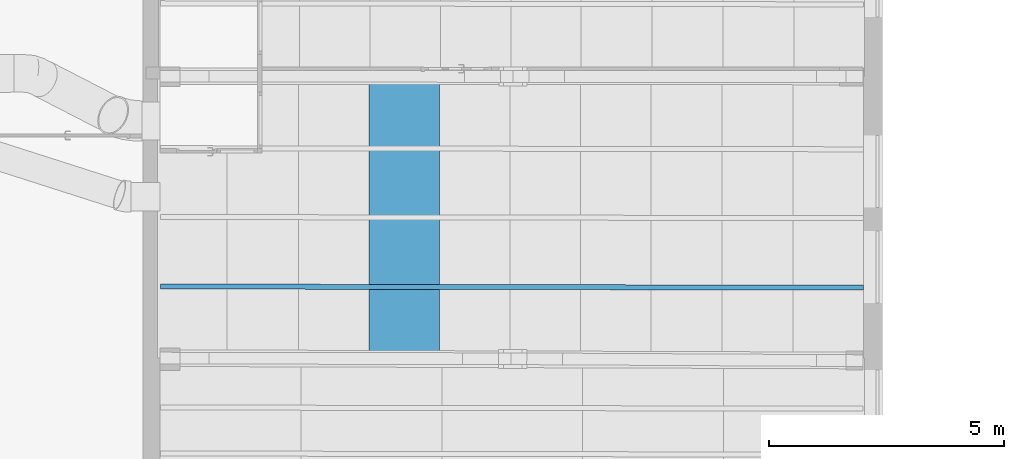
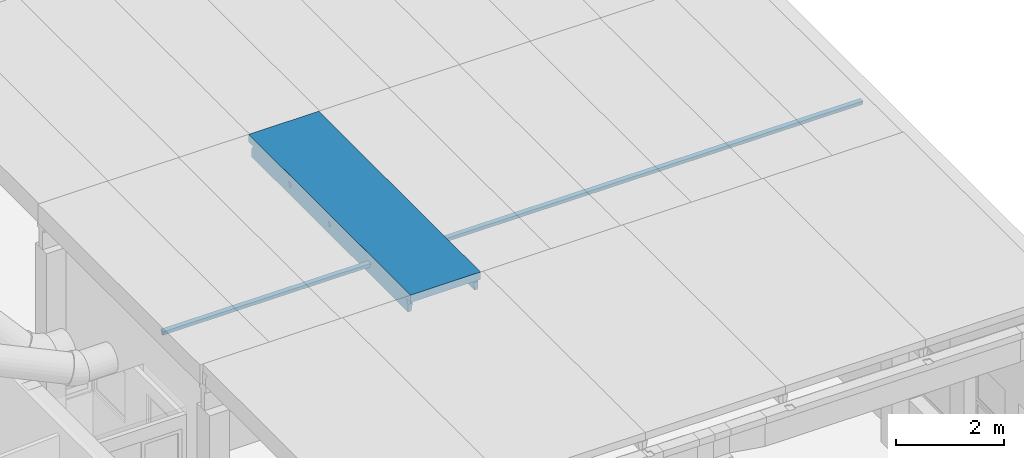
# One storey, part 32 of 301: 2 beams.
"""IFC2X3 building model written with IfcOpenShell, lengths in millimetres."""

from ifc_helpers import new_model, entity, si_unit, converted_unit, derived_unit, money_unit, direction, frame, origin_with_axes, place, context, subcontext, project, spatial, faceted_brep, material, type_object, element, save


model = new_model("IFC2X3")

# Units and contexts
model_context = context("Model", 3, precision=0.01, world=origin_with_axes(), true_north=direction((0.0, 1.0)))
body_context = subcontext(model_context, "Body", "Model", "MODEL_VIEW")
ifc_project = project(units=[si_unit("LENGTHUNIT", "METRE", prefix="MILLI"), si_unit("AREAUNIT", "SQUARE_METRE"), si_unit("VOLUMEUNIT", "CUBIC_METRE"), converted_unit("PLANEANGLEUNIT", "DEGREE", entity("IfcPlaneAngleMeasure", 0.0174532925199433), si_unit("PLANEANGLEUNIT", "RADIAN"), dimensions=[0, 0, 0, 0, 0, 0, 0]), money_unit("EUR"), converted_unit("TIMEUNIT", "Year", entity("IfcTimeMeasure", 31557600.0), si_unit("TIMEUNIT", "SECOND"), dimensions=[0, 0, 1, 0, 0, 0, 0]), si_unit("MASSUNIT", "GRAM", prefix="KILO"), si_unit("THERMODYNAMICTEMPERATUREUNIT", "DEGREE_CELSIUS"), si_unit("LUMINOUSINTENSITYUNIT", "LUMEN"), si_unit("ENERGYUNIT", "JOULE", prefix="MEGA"), derived_unit("THERMALCONDUCTANCEUNIT", [(si_unit("POWERUNIT", "WATT"), 1), (si_unit("LENGTHUNIT", "METRE"), -1), (si_unit("THERMODYNAMICTEMPERATUREUNIT", "KELVIN"), -1)]), derived_unit("SPECIFICHEATCAPACITYUNIT", [(si_unit("ENERGYUNIT", "JOULE"), 1), (si_unit("MASSUNIT", "GRAM", prefix="KILO"), -1), (si_unit("THERMODYNAMICTEMPERATUREUNIT", "KELVIN"), -1)]), derived_unit("MASSDENSITYUNIT", [(si_unit("MASSUNIT", "GRAM", prefix="KILO"), 1), (si_unit("VOLUMEUNIT", "CUBIC_METRE"), -1)])], contexts=[model_context])

# Site, building, storey
site_placement = place(None, frame((0.0, 0.0, 8650.0), z_axis=(0.0, 0.0, 1.0), x_axis=(1.0, 0.0, 0.0)))
site = spatial("IfcSite", under=ifc_project, at=site_placement, Name="43301:001:0844", CompositionType="ELEMENT")
building_placement = place(site_placement, origin_with_axes())
building = spatial("IfcBuilding", under=site, at=building_placement, Name="Kuressaare Ametikooli tuulikute mehaanikute õppekorpus", CompositionType="ELEMENT")
storey_placement = place(building_placement, origin_with_axes())
storey = spatial("IfcBuildingStorey", under=building, at=storey_placement, Name="1.korrus", CompositionType="ELEMENT", Elevation=0.0)

# Beams
ifc_material = material(Name="GENEERILINE - KONSTRUKTRIOON")
beam_type_1 = type_object("IfcBeamType", Name="Precast Double Tee 2 1500 x 440", PredefinedType="NOTDEFINED")
beam_1_placement = place(storey_placement, frame((93455.87775377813, 50086.65261783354, 7100.0), z_axis=(0.0, 0.0, 1.0), x_axis=(-1.0, 0.0, 0.0)))
element("IfcBeam", 1, at=beam_1_placement, inside=storey, type_object=beam_type_1, material=ifc_material, context=body_context, shape_type="Brep", body=[
    faceted_brep([(750.0, 0.0, 0.0), (750.0, 6001.50033195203, 0.0), (-750.0, 6001.50033195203, 0.0), (-750.0, 0.0, 0.0), (750.0, 5837.559214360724, -168.9999999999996), (750.0, 6001.50033195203, -168.9999999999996), (750.0, 0.0, -169.8234995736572), (750.0, 176.1792421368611, -169.8234995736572), (750.0, 165.2166938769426, -181.3563575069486), (750.0, 133.5442158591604, -222.3718083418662), (750.0, 107.9522251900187, -267.4324680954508), (750.0, 107.9517025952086, -440.0001340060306), (750.0, 5905.787145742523, -440.0001340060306), (750.0, 5905.786620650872, -266.6089685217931), (750.0, 5880.194483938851, -221.5483087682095), (750.0, 5848.521825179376, -180.5328579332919), (750.0, 1582.094455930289, -175.3978342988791), (750.0, 1577.519836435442, -184.1936973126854), (750.0, 1556.779850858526, -271.7709778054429), (750.0, 1516.779797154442, -271.7709778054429), (750.0, 1496.038849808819, -184.1935020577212), (750.0, 1491.464209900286, -175.3977593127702), (750.0, 1483.265418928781, -169.8234995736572), (750.0, 1590.293313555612, -169.8234995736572), (750.0, 3043.360536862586, -184.1936973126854), (750.0, 3022.62055128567, -271.7709778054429), (750.0, 2982.620497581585, -271.7709778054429), (750.0, 2961.879550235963, -184.1935020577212), (750.0, 2957.30491032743, -175.3977593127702), (750.0, 2949.106119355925, -169.8234995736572), (750.0, 3056.134013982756, -169.8234995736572), (750.0, 3047.935156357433, -175.3978342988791), (750.0, 4502.712850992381, -271.7709778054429), (750.0, 4462.712797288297, -271.7709778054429), (750.0, 4441.971849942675, -184.1935020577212), (750.0, 4437.397210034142, -175.3977593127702), (750.0, 4429.198419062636, -169.8234995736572), (750.0, 4536.226313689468, -169.8234995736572), (750.0, 4528.027456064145, -175.3978342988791), (750.0, 4523.452836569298, -184.1936973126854), (-750.0, 6001.50033195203, -168.9999999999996), (-750.0, 5842.644004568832, -168.9999999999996), (-750.0, 5853.606615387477, -180.5328579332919), (-750.0, 5885.27927414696, -221.5483087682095), (-750.0, 5910.871410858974, -266.6089685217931), (-750.0, 5910.871935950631, -440.0001340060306), (-750.0, 108.3704889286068, -440.0001340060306), (-750.0, 108.3710115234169, -267.4324680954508), (-750.0, 133.9630021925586, -222.3718083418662), (-750.0, 165.6354802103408, -181.3563575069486), (-750.0, 176.5980284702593, -169.8234995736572), (-750.0, 0.0, -169.8234995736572), (-750.0, 1498.49683963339, -184.1935020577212), (-750.0, 1519.237786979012, -271.7709778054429), (-750.0, 1559.237840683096, -271.7709778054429), (-750.0, 1579.977826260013, -184.1936973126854), (-750.0, 1584.552445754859, -175.3978342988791), (-750.0, 1592.751303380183, -169.8234995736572), (-750.0, 1485.723408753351, -169.8234995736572), (-750.0, 1493.922199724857, -175.3977593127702), (-750.0, 2985.078487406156, -271.7709778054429), (-750.0, 3025.07854111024, -271.7709778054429), (-750.0, 3045.818526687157, -184.1936973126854), (-750.0, 3050.393146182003, -175.3978342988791), (-750.0, 3058.592003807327, -169.8234995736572), (-750.0, 2951.564109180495, -169.8234995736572), (-750.0, 2959.762900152, -175.3977593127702), (-750.0, 2964.337540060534, -184.1935020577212), (-750.0, 4505.170840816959, -271.7709778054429), (-750.0, 4525.910826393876, -184.1936973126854), (-750.0, 4530.485445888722, -175.3978342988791), (-750.0, 4538.684303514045, -169.8234995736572), (-750.0, 4431.656408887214, -169.8234995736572), (-750.0, 4439.855199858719, -175.3977593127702), (-750.0, 4444.429839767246, -184.1935020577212), (-750.0, 4465.170787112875, -271.7709778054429), (-584.2531439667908, 0.0, -169.8234995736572), (586.8200850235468, 0.0, -169.8234995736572), (586.8200850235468, 176.2248004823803, -169.8234995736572), (604.4404036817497, 174.1762299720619, -171.9734684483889), (620.1516209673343, 166.3186939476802, -180.2351660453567), (621.1429266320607, 165.2526695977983, -181.3563575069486), (631.9095256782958, 155.8462554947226, -193.5336498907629), (638.1842783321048, 143.0219949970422, -210.1386333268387), (640.4097012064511, 133.5748124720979, -222.3718083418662), (648.6070026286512, 107.980533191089, -267.4324680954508), (680.0000000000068, 107.9712459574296, -440.0001340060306), (680.0000000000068, 5906.024435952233, -440.0001340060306), (648.4571940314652, 5906.130836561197, -266.6089685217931), (640.2598926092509, 5880.566487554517, -221.5483087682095), (620.4148263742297, 5848.961100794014, -180.5328579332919), (638.1842783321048, 5871.762825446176, -210.1386333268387), (631.9095256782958, 5858.961514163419, -193.5336498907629), (604.4404036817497, 5840.879085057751, -171.9734684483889), (586.8200850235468, 5838.895152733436, -169.8234995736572), (-584.2531439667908, 5842.864927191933, -169.8234995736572), (-604.310838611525, 5846.43314102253, -173.5057932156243), (-615.9100461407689, 5853.152069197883, -180.5328579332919), (620.1516209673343, 5848.679020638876, -180.2351660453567), (620.1516209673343, 1579.79139688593, -180.2351660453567), (623.651571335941, 1577.72687853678, -184.1936973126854), (610.952498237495, 1582.322307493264, -175.3978342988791), (638.1842783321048, 1571.558804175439, -210.1386333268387), (649.3962514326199, 1556.944706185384, -271.7709778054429), (631.9095256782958, 1575.501466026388, -193.5336498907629), (649.3962514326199, 1516.9446524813, -271.7709778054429), (638.1842783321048, 1502.366655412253, -210.1386333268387), (631.9095256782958, 1498.444384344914, -193.5336498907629), (623.651398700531, 1496.245892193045, -184.1935020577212), (610.952355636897, 1491.692061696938, -175.3977593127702), (620.1516209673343, 1494.192908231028, -180.2351660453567), (586.8200850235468, 1483.532815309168, -169.8234995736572), (604.4404036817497, 1486.666181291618, -171.9734684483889), (586.8200850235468, 1590.560709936, -169.8234995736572), (604.4404036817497, 1587.369613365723, -171.9734684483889), (649.3962514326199, 3022.785406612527, -271.7709778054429), (623.651571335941, 3043.567578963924, -184.1936973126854), (631.9095256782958, 3041.342166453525, -193.5336498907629), (638.1842783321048, 3037.399504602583, -210.1386333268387), (649.3962514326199, 2982.785352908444, -271.7709778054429), (638.1842783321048, 2968.207355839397, -210.1386333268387), (631.9095256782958, 2964.285084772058, -193.5336498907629), (623.651398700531, 2962.086592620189, -184.1935020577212), (620.1516209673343, 2960.033608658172, -180.2351660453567), (610.952355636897, 2957.532762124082, -175.3977593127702), (604.4404036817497, 2952.506881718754, -171.9734684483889), (586.8200850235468, 2949.373515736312, -169.8234995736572), (586.8200850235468, 3056.401410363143, -169.8234995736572), (610.952498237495, 3048.163007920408, -175.3978342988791), (604.4404036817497, 3053.210313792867, -171.9734684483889), (620.1516209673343, 3045.632097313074, -180.2351660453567), (649.3962514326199, 4502.877706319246, -271.7709778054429), (649.3962514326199, 4462.877652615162, -271.7709778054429), (638.1842783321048, 4448.299655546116, -210.1386333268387), (631.9095256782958, 4444.377384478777, -193.5336498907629), (623.651398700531, 4442.1788923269, -184.1935020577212), (620.1516209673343, 4440.125908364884, -180.2351660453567), (610.952355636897, 4437.625061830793, -175.3977593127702), (604.4404036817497, 4432.599181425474, -171.9734684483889), (586.8200850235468, 4429.465815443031, -169.8234995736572), (586.8200850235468, 4536.493710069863, -169.8234995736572), (604.4404036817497, 4533.302613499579, -171.9734684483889), (610.952498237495, 4528.25530762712, -175.3978342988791), (620.1516209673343, 4525.724397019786, -180.2351660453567), (623.651571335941, 4523.659878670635, -184.1936973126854), (631.9095256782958, 4521.434466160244, -193.5336498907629), (638.1842783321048, 4517.491804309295, -210.1386333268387), (-621.7526411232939, 5855.905181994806, -184.072435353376), (-634.3038197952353, 5868.359433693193, -200.1453415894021), (-640.3274701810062, 5883.424851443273, -219.6283094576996), (-640.6295561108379, 5884.908523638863, -221.5483087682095), (-647.7192416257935, 5910.524693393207, -266.6089685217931), (-674.9999969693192, 5910.617696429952, -440.0001340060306), (-674.9999969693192, 108.3495496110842, -440.0001340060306), (-647.8488081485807, 108.3424918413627, -267.4324680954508), (-640.7591226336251, 133.9325031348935, -222.3718083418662), (-640.3274701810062, 136.0509356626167, -219.6283094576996), (-634.3038197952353, 151.0941664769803, -200.1453415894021), (-621.7526411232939, 163.5022964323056, -184.072435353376), (-617.2693537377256, 165.5984230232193, -181.3563575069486), (-584.2531439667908, 176.5517534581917, -169.8234995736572), (-604.310838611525, 173.0571523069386, -173.5057932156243), (-621.847180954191, 1498.28684074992, -184.1935020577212), (-634.3038197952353, 1502.085122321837, -200.1453415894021), (-640.3274701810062, 1506.709138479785, -219.6283094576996), (-648.5314139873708, 1519.071514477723, -271.7709778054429), (-648.5314139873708, 1559.071568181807, -271.7709778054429), (-640.3274701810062, 1571.406512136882, -219.6283094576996), (-634.3038197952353, 1576.010583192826, -200.1453415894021), (-621.8473334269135, 1579.767827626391, -184.1936973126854), (-621.7526411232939, 1579.830739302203, -184.072435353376), (-607.4339316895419, 1584.318828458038, -175.3978342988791), (-604.310838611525, 1587.09656760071, -173.5057932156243), (-584.2531439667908, 1592.479700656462, -169.8234995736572), (-584.2531439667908, 1485.45180602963, -169.8234995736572), (-604.310838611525, 1490.900703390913, -173.5057932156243), (-607.4338079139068, 1493.688582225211, -175.3977593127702), (-621.7526411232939, 1498.223719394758, -184.072435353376), (-648.5314139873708, 2984.912214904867, -271.7709778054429), (-648.5314139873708, 3024.912268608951, -271.7709778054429), (-640.3274701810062, 3037.247212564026, -219.6283094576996), (-634.3038197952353, 3041.85128361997, -200.1453415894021), (-621.8473334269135, 3045.608528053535, -184.1936973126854), (-621.7526411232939, 3045.671439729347, -184.072435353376), (-607.4339316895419, 3050.159528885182, -175.3978342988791), (-604.310838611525, 3052.937268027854, -173.5057932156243), (-584.2531439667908, 3058.320401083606, -169.8234995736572), (-584.2531439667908, 2951.292506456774, -169.8234995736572), (-604.310838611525, 2956.741403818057, -173.5057932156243), (-607.4338079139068, 2959.529282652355, -175.3977593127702), (-621.7526411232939, 2964.064419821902, -184.072435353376), (-621.8471809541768, 2964.127541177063, -184.1935020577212), (-634.3038197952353, 2967.925822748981, -200.1453415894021), (-640.3274701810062, 2972.549838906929, -219.6283094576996), (-634.3038197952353, 4521.943583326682, -200.1453415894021), (-621.8473334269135, 4525.700827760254, -184.1936973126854), (-648.5314139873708, 4505.00456831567, -271.7709778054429), (-640.3274701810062, 4517.339512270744, -219.6283094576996), (-621.7526411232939, 4525.763739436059, -184.072435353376), (-607.4339316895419, 4530.251828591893, -175.3978342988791), (-604.310838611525, 4533.029567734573, -173.5057932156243), (-584.2531439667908, 4538.412700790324, -169.8234995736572), (-584.2531439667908, 4431.384806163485, -169.8234995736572), (-604.310838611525, 4436.83370352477, -173.5057932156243), (-607.4338079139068, 4439.621582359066, -175.3977593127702), (-621.7526411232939, 4444.156719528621, -184.072435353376), (-621.8471809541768, 4444.219840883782, -184.1935020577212), (-640.3274701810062, 4452.642138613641, -219.6283094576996), (-648.5314139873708, 4465.004514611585, -271.7709778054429), (-634.3038197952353, 4448.0181224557, -200.1453415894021)], [[[0, 1, 2, 3]], [[4, 5, 1, 0, 6, 7, 8, 9, 10, 11, 12, 13, 14, 15], [16, 17, 18, 19, 20, 21, 22, 23], [24, 25, 26, 27, 28, 29, 30, 31], [32, 33, 34, 35, 36, 37, 38, 39]], [[5, 40, 2, 1]], [[3, 2, 40, 41, 42, 43, 44, 45, 46, 47, 48, 49, 50, 51], [52, 53, 54, 55, 56, 57, 58, 59], [60, 61, 62, 63, 64, 65, 66, 67], [68, 69, 70, 71, 72, 73, 74, 75]], [[51, 76, 77, 6, 0, 3]], [[41, 40, 5, 4]], [[78, 7, 6, 77]], [[78, 79, 80, 81, 8, 7]], [[81, 82, 83, 84, 9, 8]], [[10, 9, 84, 85]], [[11, 10, 85, 86]], [[86, 87, 12, 11]], [[12, 87, 88, 13]], [[13, 88, 89, 14]], [[90, 15, 14, 89, 91, 92]], [[93, 94, 95, 96, 97, 42, 41, 4, 15, 90, 98]], [[99, 100, 17, 16, 101]], [[102, 103, 18, 17, 100, 104]], [[103, 105, 19, 18]], [[20, 19, 105, 106, 107, 108]], [[109, 21, 20, 108, 110]], [[111, 22, 21, 109, 112]], [[111, 113, 23, 22]], [[114, 101, 16, 23, 113]], [[115, 25, 24, 116, 117, 118]], [[119, 26, 25, 115]], [[26, 119, 120, 121, 122, 27]], [[28, 27, 122, 123, 124]], [[29, 28, 124, 125, 126]], [[127, 30, 29, 126]], [[128, 31, 30, 127, 129]], [[116, 24, 31, 128, 130]], [[33, 32, 131, 132]], [[132, 133, 134, 135, 34, 33]], [[34, 135, 136, 137, 35]], [[35, 137, 138, 139, 36]], [[37, 36, 139, 140]], [[38, 37, 140, 141, 142]], [[39, 38, 142, 143, 144]], [[32, 39, 144, 145, 146, 131]], [[97, 147, 148, 149, 150, 43, 42]], [[151, 44, 43, 150]], [[152, 45, 44, 151]], [[46, 45, 152, 153]], [[153, 154, 47, 46]], [[154, 155, 48, 47]], [[48, 155, 156, 157, 158, 159, 49]], [[160, 50, 49, 159, 161]], [[50, 160, 76, 51]], [[162, 163, 164, 165, 53, 52]], [[54, 53, 165, 166]], [[166, 167, 168, 169, 55, 54]], [[55, 169, 170, 171, 56]], [[56, 171, 172, 173, 57]], [[58, 57, 173, 174]], [[58, 174, 175, 176, 59]], [[59, 176, 177, 162, 52]], [[60, 178, 179, 61]], [[180, 181, 182, 62, 61, 179]], [[182, 183, 184, 63, 62]], [[184, 185, 186, 64, 63]], [[64, 186, 187, 65]], [[187, 188, 189, 66, 65]], [[189, 190, 191, 67, 66]], [[192, 193, 178, 60, 67, 191]], [[194, 195, 69, 68, 196, 197]], [[198, 199, 70, 69, 195]], [[200, 201, 71, 70, 199]], [[201, 202, 72, 71]], [[203, 204, 73, 72, 202]], [[205, 206, 74, 73, 204]], [[207, 208, 75, 74, 206, 209]], [[208, 196, 68, 75]], [[187, 186, 202, 201, 95, 94, 140, 139, 127, 126, 113, 111, 78, 77, 76, 160, 174, 173]], [[111, 112, 79, 78]], [[110, 80, 79, 112, 109]], [[82, 81, 80, 110, 108, 107]], [[107, 106, 83, 82]], [[133, 132, 131, 146, 91, 89, 88, 87, 86, 85, 84, 83, 106, 105, 103, 102, 120, 119, 115, 118]], [[92, 91, 146, 145]], [[92, 145, 144, 143, 98, 90]], [[94, 93, 141, 140]], [[96, 95, 201, 200]], [[96, 200, 199, 198, 147, 97]], [[98, 143, 142, 141, 93]], [[100, 99, 123, 122, 121, 104]], [[101, 114, 125, 124, 123, 99]], [[120, 102, 104, 121]], [[125, 114, 113, 126]], [[130, 136, 135, 134, 117, 116]], [[118, 117, 134, 133]], [[129, 127, 139, 138]], [[129, 138, 137, 136, 130, 128]], [[147, 198, 195, 194, 148]], [[149, 148, 194, 197]], [[150, 149, 197, 196, 208, 207, 180, 179, 178, 193, 167, 166, 165, 164, 156, 155, 154, 153, 152, 151]], [[164, 163, 157, 156]], [[177, 158, 157, 163, 162]], [[161, 159, 158, 177, 176, 175]], [[175, 174, 160, 161]], [[192, 168, 167, 193]], [[169, 168, 192, 191, 190, 170]], [[171, 170, 190, 189, 188, 172]], [[187, 173, 172, 188]], [[181, 180, 207, 209]], [[181, 209, 206, 205, 183, 182]], [[183, 205, 204, 203, 185, 184]], [[186, 185, 203, 202]]]),
])
beam_type_2 = type_object("IfcBeamType", Name="Precast Single Tee 2 107 x 102", PredefinedType="NOTDEFINED")
beam_2_placement = place(storey_placement, frame((88267.79704373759, 45611.21275627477, 6930.176500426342), z_axis=(0.0, 0.0, 1.0), x_axis=(-0.001638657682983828, -0.9999986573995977, 0.0)))
element("IfcBeam", 2, at=beam_2_placement, inside=storey, type_object=beam_type_2, material=ifc_material, context=body_context, shape_type="Brep", body=[
    faceted_brep([(45.31502884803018, 0.0, -5.574334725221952), (45.31502884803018, 14968.77585727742, -5.574334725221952), (53.51387546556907, 14968.77585727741, 0.0), (53.51387546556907, 0.0, 0.0), (40.74041549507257, 0.0, -14.37019773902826), (40.74041549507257, 14968.77585727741, -14.37019773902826), (20.00045776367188, 14968.77585727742, -101.9474782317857), (-19.99954223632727, 14968.77585727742, -101.9474782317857), (-40.74046173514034, 14968.77585727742, -14.37000248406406), (-45.31509550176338, 14968.77585727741, -5.574259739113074), (-53.51387546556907, 14968.77585727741, 0.0), (-53.51387546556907, 0.0, 0.0), (-45.31509550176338, 0.0, -5.574259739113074), (-40.74046173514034, 0.0, -14.37000248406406), (-19.99954223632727, 0.0, -101.9474782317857), (20.00045776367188, 0.0, -101.9474782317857)], [[[0, 1, 2, 3]], [[4, 5, 1, 0]], [[2, 1, 5, 6, 7, 8, 9, 10]], [[3, 2, 10, 11]], [[4, 0, 3, 11, 12, 13, 14, 15]], [[15, 6, 5, 4]], [[14, 7, 6, 15]], [[13, 8, 7, 14]], [[12, 9, 8, 13]], [[11, 10, 9, 12]]]),
])

save(model, "model.ifc")
